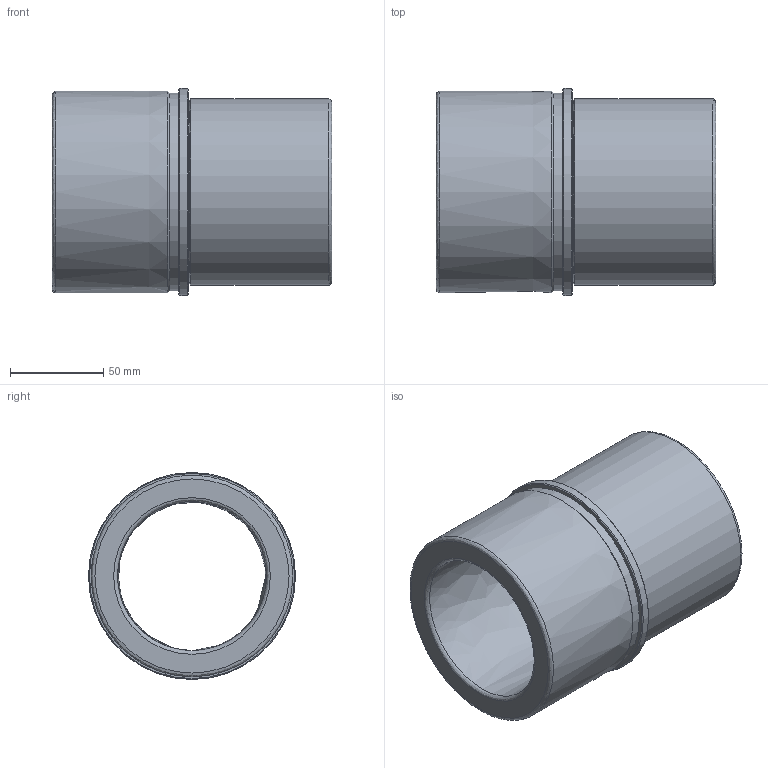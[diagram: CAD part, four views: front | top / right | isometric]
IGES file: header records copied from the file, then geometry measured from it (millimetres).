
Start section: Data from Parasolid IGES Translator 20.0.26, Copyright(c) 2006 Siemens P LM Software. All Rights Reserved.
Global section: file name: WZ - 4051 80 x 150.igs; native system: By Siemens PLM Incorporated; preprocessor: XPlus GENERIC/IGES 20.0.26; author: Noname; organization: Noname; date: 20201204.204429; units: inch
Bounding box: 150 x 111 x 111 mm (x, y, z)
Surface area: 96382.6 mm2 (no closed solid volume)
Topology: 0 solids, 0 shells, 21 faces, 82 edges, 60 vertices
Faces by surface type: revolution 16, extrusion 5
